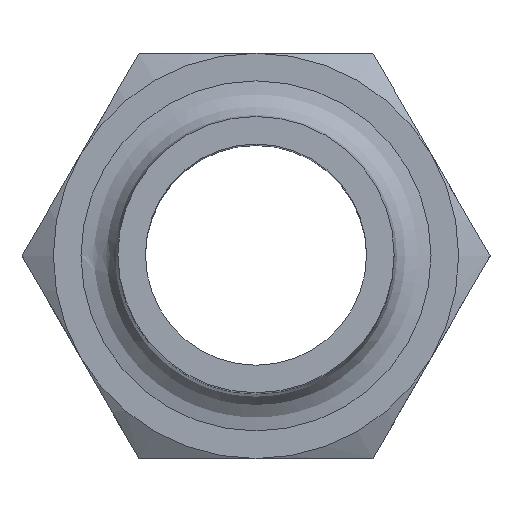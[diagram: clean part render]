
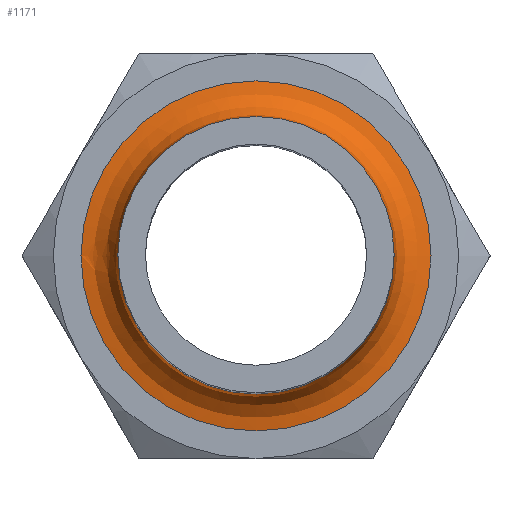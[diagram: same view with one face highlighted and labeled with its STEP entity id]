
A CAD part, top view. The second image highlights one B-rep face of the part: STEP entity #1171.
In plain terms, the highlighted free-form (B-spline) face has degree [2, 2] with [5, 9] control points.
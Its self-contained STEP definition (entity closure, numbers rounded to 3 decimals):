
#1096=CARTESIAN_POINT('',(7.5,0.,-22.0));
#1097=CARTESIAN_POINT('',(7.5,0.,-20.0));
#1098=CARTESIAN_POINT('',(9.5,0.,-20.0));
#1099=CARTESIAN_POINT('',(11.5,0.,-20.0));
#1100=CARTESIAN_POINT('',(11.5,0.,-22.0));
#1101=CARTESIAN_POINT('',(7.5,-7.5,-22.0));
#1102=CARTESIAN_POINT('',(7.5,-7.5,-20.0));
#1103=CARTESIAN_POINT('',(9.5,-9.5,-20.0));
#1104=CARTESIAN_POINT('',(11.5,-11.5,-20.0));
#1105=CARTESIAN_POINT('',(11.5,-11.5,-22.0));
#1106=CARTESIAN_POINT('',(0.,-7.5,-22.0));
#1107=CARTESIAN_POINT('',(0.,-7.5,-20.0));
#1108=CARTESIAN_POINT('',(0.,-9.5,-20.0));
#1109=CARTESIAN_POINT('',(0.,-11.5,-20.0));
#1110=CARTESIAN_POINT('',(0.,-11.5,-22.0));
#1111=CARTESIAN_POINT('',(-7.5,-7.5,-22.0));
#1112=CARTESIAN_POINT('',(-7.5,-7.5,-20.0));
#1113=CARTESIAN_POINT('',(-9.5,-9.5,-20.0));
#1114=CARTESIAN_POINT('',(-11.5,-11.5,-20.0));
#1115=CARTESIAN_POINT('',(-11.5,-11.5,-22.0));
#1116=CARTESIAN_POINT('',(-7.5,0.,-22.0));
#1117=CARTESIAN_POINT('',(-7.5,0.,-20.0));
#1118=CARTESIAN_POINT('',(-9.5,0.,-20.0));
#1119=CARTESIAN_POINT('',(-11.5,0.,-20.0));
#1120=CARTESIAN_POINT('',(-11.5,0.,-22.0));
#1121=CARTESIAN_POINT('',(-7.5,7.5,-22.0));
#1122=CARTESIAN_POINT('',(-7.5,7.5,-20.0));
#1123=CARTESIAN_POINT('',(-9.5,9.5,-20.0));
#1124=CARTESIAN_POINT('',(-11.5,11.5,-20.0));
#1125=CARTESIAN_POINT('',(-11.5,11.5,-22.0));
#1126=CARTESIAN_POINT('',(0.,7.5,-22.0));
#1127=CARTESIAN_POINT('',(0.,7.5,-20.0));
#1128=CARTESIAN_POINT('',(0.,9.5,-20.0));
#1129=CARTESIAN_POINT('',(0.,11.5,-20.0));
#1130=CARTESIAN_POINT('',(0.,11.5,-22.0));
#1131=CARTESIAN_POINT('',(7.5,7.5,-22.0));
#1132=CARTESIAN_POINT('',(7.5,7.5,-20.0));
#1133=CARTESIAN_POINT('',(9.5,9.5,-20.0));
#1134=CARTESIAN_POINT('',(11.5,11.5,-20.0));
#1135=CARTESIAN_POINT('',(11.5,11.5,-22.0));
#1136=CARTESIAN_POINT('',(7.5,0.,-22.0));
#1137=CARTESIAN_POINT('',(7.5,0.,-20.0));
#1138=CARTESIAN_POINT('',(9.5,0.,-20.0));
#1139=CARTESIAN_POINT('',(11.5,0.,-20.0));
#1140=CARTESIAN_POINT('',(11.5,0.,-22.0));
#1148=(BOUNDED_SURFACE()B_SPLINE_SURFACE(2,2,((#1096,#1101,#1106,#1111,#1116,#1121,#1126,#1131,#1136),(#1097,#1102,#1107,#1112,#1117,#1122,#1127,#1132,#1137),(#1098,#1103,#1108,#1113,#1118,#1123,#1128,#1133,#1138),(#1099,#1104,#1109,#1114,#1119,#1124,#1129,#1134,#1139),(#1100,#1105,#1110,#1115,#1120,#1125,#1130,#1135,#1140)),.UNSPECIFIED.,.F.,.T.,.U.)B_SPLINE_SURFACE_WITH_KNOTS((3,2,3),(3,2,2,2,3),(-3.142,-1.571,0.),(0.0,1.571,3.142,4.712,6.283),.UNSPECIFIED.)GEOMETRIC_REPRESENTATION_ITEM()RATIONAL_B_SPLINE_SURFACE(((1.0,0.707,1.0,0.707,1.0,0.707,1.0,0.707,1.0),(0.707,0.5,0.707,0.5,0.707,0.5,0.707,0.5,0.707),(1.0,0.707,1.0,0.707,1.0,0.707,1.0,0.707,1.0),(0.707,0.5,0.707,0.5,0.707,0.5,0.707,0.5,0.707),(1.0,0.707,1.0,0.707,1.0,0.707,1.0,0.707,1.0)))REPRESENTATION_ITEM('')SURFACE());
#1149=CARTESIAN_POINT('',(-9.5,0.,-20.0));
#1150=VERTEX_POINT('',#1149);
#1151=CARTESIAN_POINT('',(0.,0.,-20.0));
#1152=DIRECTION('',(0.0,0.0,-1.0));
#1153=DIRECTION('',(1.0,0.0,0.0));
#1154=AXIS2_PLACEMENT_3D('',#1151,#1152,#1153);
#1155=CIRCLE('',#1154,9.5);
#1156=EDGE_CURVE('',#1150,#1150,#1155,.T.);
#1157=ORIENTED_EDGE('',*,*,#1156,.T.);
#1158=EDGE_LOOP('',(#1157));
#1159=FACE_OUTER_BOUND('',#1158,.T.);
#1160=CARTESIAN_POINT('',(-7.5,0.,-22.0));
#1161=VERTEX_POINT('',#1160);
#1162=CARTESIAN_POINT('',(0.0,0.0,-22.0));
#1163=DIRECTION('',(0.0,0.0,1.0));
#1164=DIRECTION('',(1.0,0.0,0.0));
#1165=AXIS2_PLACEMENT_3D('',#1162,#1163,#1164);
#1166=CIRCLE('',#1165,7.5);
#1167=EDGE_CURVE('',#1161,#1161,#1166,.T.);
#1168=ORIENTED_EDGE('',*,*,#1167,.T.);
#1169=EDGE_LOOP('',(#1168));
#1170=FACE_BOUND('',#1169,.T.);
#1171=ADVANCED_FACE('',(#1159,#1170),#1148,.T.);
